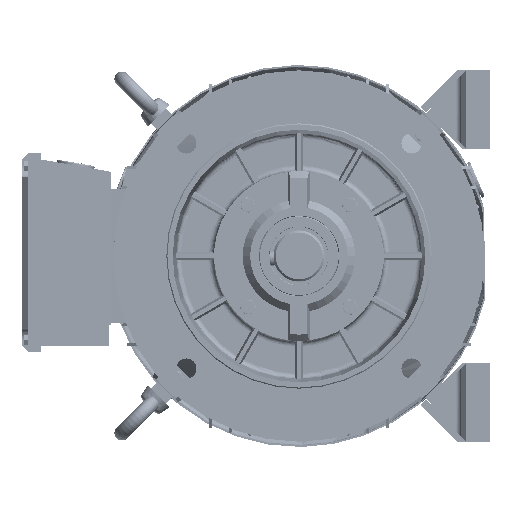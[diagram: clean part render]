
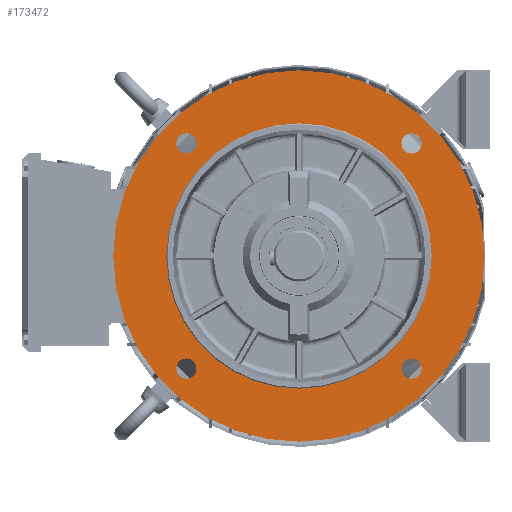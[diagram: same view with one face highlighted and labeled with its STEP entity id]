
A CAD part, left-side view. The second image highlights one B-rep face of the part: STEP entity #173472.
In plain terms, the highlighted planar face has unit normal (-1, 0, 0).
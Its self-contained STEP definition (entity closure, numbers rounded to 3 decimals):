
#83602 = CARTESIAN_POINT ( 'NONE',  ( 0., 0., 175. ) ) ;
#84697 = CARTESIAN_POINT ( 'NONE',  ( 0., -106.066, 115.566 ) ) ;
#84702 = CARTESIAN_POINT ( 'NONE',  ( 0., -106.066, 96.566 ) ) ;
#84801 = CARTESIAN_POINT ( 'NONE',  ( 0., -106.066, -115.566 ) ) ;
#84885 = CARTESIAN_POINT ( 'NONE',  ( 0., -106.066, -96.566 ) ) ;
#84886 = DIRECTION ( 'NONE',  ( 0., 0., 1. ) ) ;
#84887 = DIRECTION ( 'NONE',  ( -1., 0., 0. ) ) ;
#84888 = CARTESIAN_POINT ( 'NONE',  ( 0., -106.066, -106.066 ) ) ;
#84889 = AXIS2_PLACEMENT_3D ( 'NONE', #84888, #84887, #84886 ) ;
#84895 = CIRCLE ( 'NONE', #84889, 9.5 ) ;
#84898 = DIRECTION ( 'NONE',  ( 0., 0., 1. ) ) ;
#84899 = DIRECTION ( 'NONE',  ( -1., 0., 0. ) ) ;
#84900 = CARTESIAN_POINT ( 'NONE',  ( 0., 106.066, 106.066 ) ) ;
#84901 = AXIS2_PLACEMENT_3D ( 'NONE', #84900, #84899, #84898 ) ;
#84902 = CIRCLE ( 'NONE', #84901, 9.5 ) ;
#84908 = CARTESIAN_POINT ( 'NONE',  ( 0., 106.066, 96.566 ) ) ;
#84997 = CARTESIAN_POINT ( 'NONE',  ( 0., 106.066, 115.566 ) ) ;
#85030 = DIRECTION ( 'NONE',  ( 0., 0., 1. ) ) ;
#85031 = DIRECTION ( 'NONE',  ( -1., 0., 0. ) ) ;
#85032 = AXIS2_PLACEMENT_3D ( 'NONE', #85039, #85031, #85030 ) ;
#85033 = CIRCLE ( 'NONE', #85032, 9.5 ) ;
#85039 = CARTESIAN_POINT ( 'NONE',  ( 0., 106.066, -106.066 ) ) ;
#85047 = CARTESIAN_POINT ( 'NONE',  ( 0., 106.066, -115.566 ) ) ;
#85065 = DIRECTION ( 'NONE',  ( 0., 0., 1. ) ) ;
#85066 = DIRECTION ( 'NONE',  ( -1., 0., 0. ) ) ;
#85067 = CARTESIAN_POINT ( 'NONE',  ( 0., -106.066, 106.066 ) ) ;
#85068 = AXIS2_PLACEMENT_3D ( 'NONE', #85067, #85066, #85065 ) ;
#85069 = CIRCLE ( 'NONE', #85068, 9.5 ) ;
#85075 = CARTESIAN_POINT ( 'NONE',  ( 0., 106.066, -96.566 ) ) ;
#86059 = DIRECTION ( 'NONE',  ( 0., 0., 1. ) ) ;
#86060 = DIRECTION ( 'NONE',  ( -1., 0., 0. ) ) ;
#86061 = CARTESIAN_POINT ( 'NONE',  ( 0., 0., 0. ) ) ;
#86062 = AXIS2_PLACEMENT_3D ( 'NONE', #86061, #86060, #86059 ) ;
#86063 = CIRCLE ( 'NONE', #86062, 175. ) ;
#86074 = CARTESIAN_POINT ( 'NONE',  ( 0., 0., -175. ) ) ;
#89607 = CARTESIAN_POINT ( 'NONE',  ( 0., 0., 125. ) ) ;
#89609 = DIRECTION ( 'NONE',  ( 0., 0., 1. ) ) ;
#89610 = DIRECTION ( 'NONE',  ( -1., 0., 0. ) ) ;
#89611 = CARTESIAN_POINT ( 'NONE',  ( 0., 0., 0. ) ) ;
#89612 = AXIS2_PLACEMENT_3D ( 'NONE', #89611, #89610, #89609 ) ;
#89613 = CIRCLE ( 'NONE', #89612, 125. ) ;
#89667 = CARTESIAN_POINT ( 'NONE',  ( 0., 0., -125. ) ) ;
#97321 = CARTESIAN_POINT ( 'NONE',  ( 0., 175., 0. ) ) ;
#97571 = DIRECTION ( 'NONE',  ( 0., 0., -1. ) ) ;
#97572 = DIRECTION ( 'NONE',  ( 1., 0., 0. ) ) ;
#98848 = PLANE ( 'NONE',  #98862 ) ;
#98862 = AXIS2_PLACEMENT_3D ( 'NONE', #97321, #97572, #97571 ) ;
#101044 = DIRECTION ( 'NONE',  ( 0., 0., 1. ) ) ;
#101046 = DIRECTION ( 'NONE',  ( -1., 0., 0. ) ) ;
#101047 = CARTESIAN_POINT ( 'NONE',  ( 0., -106.066, -106.066 ) ) ;
#101049 = AXIS2_PLACEMENT_3D ( 'NONE', #101047, #101046, #101044 ) ;
#101050 = CIRCLE ( 'NONE', #101049, 9.5 ) ;
#101123 = DIRECTION ( 'NONE',  ( 0., 0., 1. ) ) ;
#101125 = DIRECTION ( 'NONE',  ( -1., 0., 0. ) ) ;
#101127 = CARTESIAN_POINT ( 'NONE',  ( 0., -106.066, 106.066 ) ) ;
#101128 = AXIS2_PLACEMENT_3D ( 'NONE', #101127, #101125, #101123 ) ;
#101130 = CIRCLE ( 'NONE', #101128, 9.5 ) ;
#101395 = DIRECTION ( 'NONE',  ( 0., 0., 1. ) ) ;
#101397 = DIRECTION ( 'NONE',  ( -1., 0., 0. ) ) ;
#101398 = CARTESIAN_POINT ( 'NONE',  ( 0., 106.066, 106.066 ) ) ;
#101399 = AXIS2_PLACEMENT_3D ( 'NONE', #101398, #101397, #101395 ) ;
#101401 = CIRCLE ( 'NONE', #101399, 9.5 ) ;
#101483 = DIRECTION ( 'NONE',  ( 0., 0., 1. ) ) ;
#101485 = DIRECTION ( 'NONE',  ( -1., 0., 0. ) ) ;
#101486 = CARTESIAN_POINT ( 'NONE',  ( 0., 106.066, -106.066 ) ) ;
#101487 = AXIS2_PLACEMENT_3D ( 'NONE', #101486, #101485, #101483 ) ;
#101489 = CIRCLE ( 'NONE', #101487, 9.5 ) ;
#101532 = DIRECTION ( 'NONE',  ( 0., 0., 1. ) ) ;
#101534 = DIRECTION ( 'NONE',  ( -1., 0., 0. ) ) ;
#101536 = CARTESIAN_POINT ( 'NONE',  ( 0., 0., 0. ) ) ;
#101538 = AXIS2_PLACEMENT_3D ( 'NONE', #101536, #101534, #101532 ) ;
#101549 = CIRCLE ( 'NONE', #101538, 125. ) ;
#101631 = FACE_OUTER_BOUND ( 'NONE', #173433, .T. ) ;
#101633 = FACE_BOUND ( 'NONE', #173411, .T. ) ;
#101635 = FACE_BOUND ( 'NONE', #173387, .T. ) ;
#101637 = FACE_BOUND ( 'NONE', #173287, .T. ) ;
#101639 = FACE_BOUND ( 'NONE', #173267, .T. ) ;
#101640 = FACE_BOUND ( 'NONE', #173481, .T. ) ;
#101773 = DIRECTION ( 'NONE',  ( 0., 0., 1. ) ) ;
#101775 = DIRECTION ( 'NONE',  ( -1., 0., 0. ) ) ;
#101776 = CARTESIAN_POINT ( 'NONE',  ( 0., 0., 0. ) ) ;
#101778 = AXIS2_PLACEMENT_3D ( 'NONE', #101776, #101775, #101773 ) ;
#101779 = CIRCLE ( 'NONE', #101778, 175. ) ;
#126742 = ORIENTED_EDGE ( 'NONE', *, *, #173528, .T. ) ;
#160237 = VERTEX_POINT ( 'NONE', #83602 ) ;
#161374 = VERTEX_POINT ( 'NONE', #84702 ) ;
#161381 = VERTEX_POINT ( 'NONE', #84697 ) ;
#161466 = VERTEX_POINT ( 'NONE', #84801 ) ;
#161545 = VERTEX_POINT ( 'NONE', #84908 ) ;
#161558 = EDGE_CURVE ( 'NONE', #161545, #161649, #84902, .T. ) ;
#161569 = EDGE_CURVE ( 'NONE', #161466, #161573, #84895, .T. ) ;
#161573 = VERTEX_POINT ( 'NONE', #84885 ) ;
#161649 = VERTEX_POINT ( 'NONE', #84997 ) ;
#161728 = VERTEX_POINT ( 'NONE', #85047 ) ;
#161738 = EDGE_CURVE ( 'NONE', #161728, #161748, #85033, .T. ) ;
#161748 = VERTEX_POINT ( 'NONE', #85075 ) ;
#161759 = EDGE_CURVE ( 'NONE', #161374, #161381, #85069, .T. ) ;
#162725 = VERTEX_POINT ( 'NONE', #86074 ) ;
#162742 = EDGE_CURVE ( 'NONE', #160237, #162725, #86063, .T. ) ;
#166156 = EDGE_CURVE ( 'NONE', #166164, #166166, #89613, .T. ) ;
#166164 = VERTEX_POINT ( 'NONE', #89607 ) ;
#166166 = VERTEX_POINT ( 'NONE', #89667 ) ;
#173250 = ORIENTED_EDGE ( 'NONE', *, *, #173253, .F. ) ;
#173253 = EDGE_CURVE ( 'NONE', #161573, #161466, #101050, .T. ) ;
#173262 = ORIENTED_EDGE ( 'NONE', *, *, #161569, .F. ) ;
#173267 = EDGE_LOOP ( 'NONE', ( #173273, #173283 ) ) ;
#173273 = ORIENTED_EDGE ( 'NONE', *, *, #173277, .F. ) ;
#173277 = EDGE_CURVE ( 'NONE', #161381, #161374, #101130, .T. ) ;
#173283 = ORIENTED_EDGE ( 'NONE', *, *, #161759, .F. ) ;
#173287 = EDGE_LOOP ( 'NONE', ( #173371, #173383 ) ) ;
#173371 = ORIENTED_EDGE ( 'NONE', *, *, #173378, .F. ) ;
#173378 = EDGE_CURVE ( 'NONE', #161649, #161545, #101401, .T. ) ;
#173383 = ORIENTED_EDGE ( 'NONE', *, *, #161558, .F. ) ;
#173387 = EDGE_LOOP ( 'NONE', ( #173393, #173408 ) ) ;
#173393 = ORIENTED_EDGE ( 'NONE', *, *, #173397, .F. ) ;
#173397 = EDGE_CURVE ( 'NONE', #161748, #161728, #101489, .T. ) ;
#173408 = ORIENTED_EDGE ( 'NONE', *, *, #161738, .F. ) ;
#173411 = EDGE_LOOP ( 'NONE', ( #173415, #173423 ) ) ;
#173415 = ORIENTED_EDGE ( 'NONE', *, *, #166156, .F. ) ;
#173423 = ORIENTED_EDGE ( 'NONE', *, *, #173429, .F. ) ;
#173429 = EDGE_CURVE ( 'NONE', #166166, #166164, #101549, .T. ) ;
#173433 = EDGE_LOOP ( 'NONE', ( #173440, #126742 ) ) ;
#173440 = ORIENTED_EDGE ( 'NONE', *, *, #162742, .T. ) ;
#173472 = ADVANCED_FACE ( 'NONE', ( #101640, #101639, #101637, #101635, #101633, #101631 ), #98848, .F. ) ;
#173481 = EDGE_LOOP ( 'NONE', ( #173250, #173262 ) ) ;
#173528 = EDGE_CURVE ( 'NONE', #162725, #160237, #101779, .T. ) ;
